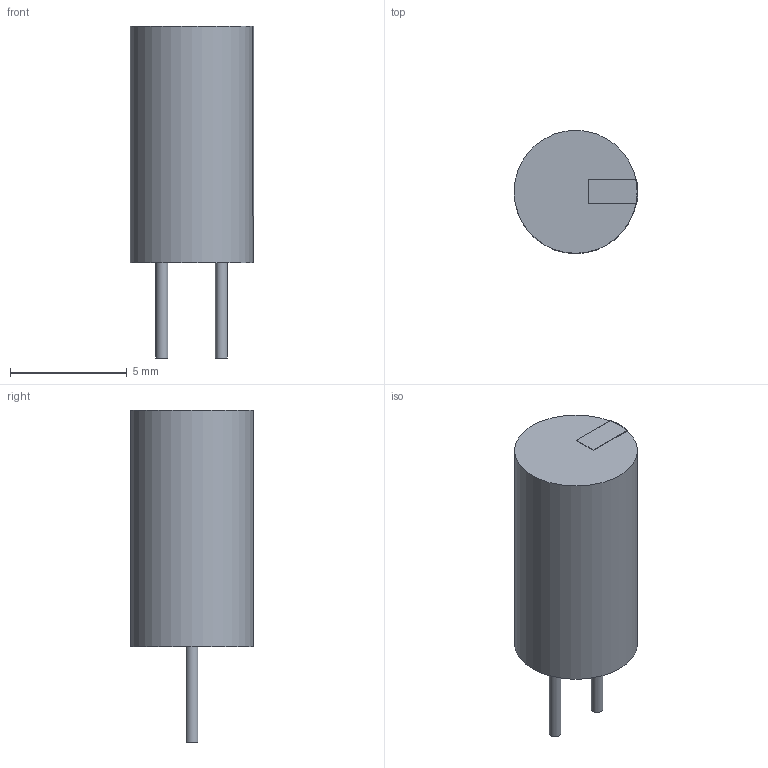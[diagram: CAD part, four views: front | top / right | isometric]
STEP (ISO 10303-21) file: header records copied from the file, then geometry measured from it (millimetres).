
FILE_DESCRIPTION(('STEP AP214'),'1');
FILE_NAME('LED_LTL-307E_LTO','2025-04-30T07:00:17',(''),(''),'','','');
FILE_SCHEMA(('AUTOMOTIVE_DESIGN'));
Length unit declared in the file: millimetre
Products named in the file (1): product
Bounding box: 5.29 x 5.26 x 14.19 mm (x, y, z)
Volume: 221.4 mm3; surface area: 245.8 mm2
Topology: 4 solids, 4 shells, 17 faces, 27 edges, 18 vertices
Faces by surface type: plane 12, cylinder 5
Full cylindrical faces by diameter (mm): 0.508 x2, 5.258 x1
Entity records: 552 total; most frequent: DIRECTION 76, CARTESIAN_POINT 48, ORIENTED_EDGE 48, AXIS2_PLACEMENT_3D 31, EDGE_CURVE 24, EDGE_LOOP 20, VERTEX_POINT 18, PRESENTATION_STYLE_ASSIGNMENT 17
